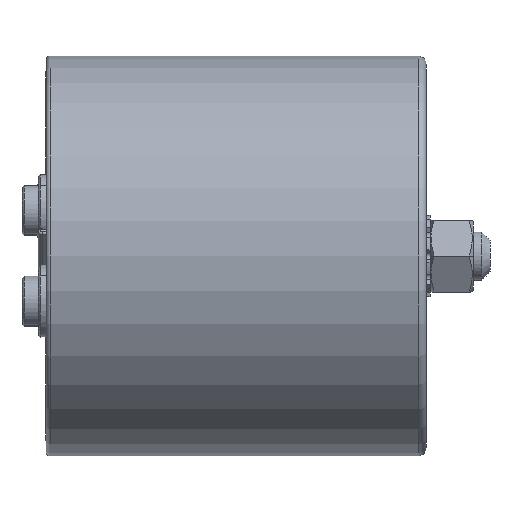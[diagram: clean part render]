
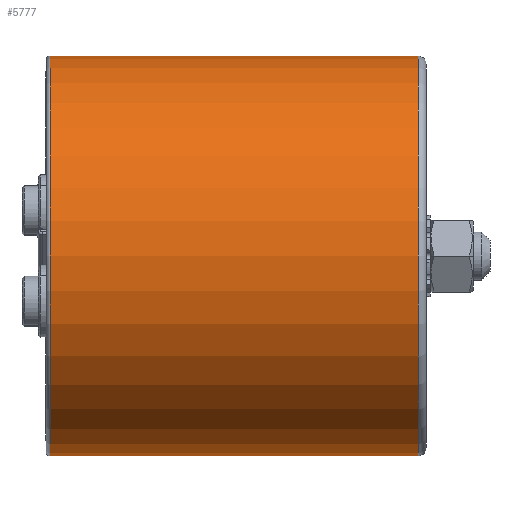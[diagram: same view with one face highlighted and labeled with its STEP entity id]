
A CAD part, left-side view. The second image highlights one B-rep face of the part: STEP entity #5777.
In plain terms, the highlighted cylindrical face has radius 50 mm (diameter 100 mm), a partial arc.
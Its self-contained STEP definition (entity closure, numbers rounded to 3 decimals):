
#189 = DIRECTION ( 'NONE',  ( 0., 0., 1. ) ) ;
#256 = VERTEX_POINT ( 'NONE', #309 ) ;
#309 = CARTESIAN_POINT ( 'NONE',  ( 0., -93., -50. ) ) ;
#324 = CARTESIAN_POINT ( 'NONE',  ( 0., -1., 50. ) ) ;
#345 = AXIS2_PLACEMENT_3D ( 'NONE', #6505, #2710, #3947 ) ;
#641 = CIRCLE ( 'NONE', #1678, 50. ) ;
#693 = DIRECTION ( 'NONE',  ( 0., 1., 0. ) ) ;
#722 = CARTESIAN_POINT ( 'NONE',  ( 0., -10., 0. ) ) ;
#750 = VERTEX_POINT ( 'NONE', #6917 ) ;
#807 = AXIS2_PLACEMENT_3D ( 'NONE', #722, #693, #3940 ) ;
#1226 = FACE_OUTER_BOUND ( 'NONE', #7086, .T. ) ;
#1338 = EDGE_CURVE ( 'NONE', #4490, #5555, #7600, .T. ) ;
#1422 = ORIENTED_EDGE ( 'NONE', *, *, #2392, .F. ) ;
#1678 = AXIS2_PLACEMENT_3D ( 'NONE', #5245, #6534, #189 ) ;
#2350 = CARTESIAN_POINT ( 'NONE',  ( 0., -10., 50. ) ) ;
#2392 = EDGE_CURVE ( 'NONE', #256, #750, #3693, .T. ) ;
#2710 = DIRECTION ( 'NONE',  ( 0., 1., 0. ) ) ;
#3080 = VECTOR ( 'NONE', #6810, 1000. ) ;
#3278 = ORIENTED_EDGE ( 'NONE', *, *, #3966, .T. ) ;
#3693 = LINE ( 'NONE', #6830, #3080 ) ;
#3940 = DIRECTION ( 'NONE',  ( 0., 0., -1. ) ) ;
#3947 = DIRECTION ( 'NONE',  ( 0., 0., -1. ) ) ;
#3966 = EDGE_CURVE ( 'NONE', #256, #4490, #5295, .T. ) ;
#4490 = VERTEX_POINT ( 'NONE', #4662 ) ;
#4662 = CARTESIAN_POINT ( 'NONE',  ( 0., -93., 50. ) ) ;
#5245 = CARTESIAN_POINT ( 'NONE',  ( 0., -1., 0. ) ) ;
#5295 = CIRCLE ( 'NONE', #345, 50. ) ;
#5424 = EDGE_CURVE ( 'NONE', #5555, #750, #641, .T. ) ;
#5555 = VERTEX_POINT ( 'NONE', #324 ) ;
#5777 = ADVANCED_FACE ( 'NONE', ( #1226 ), #6053, .T. ) ;
#6053 = CYLINDRICAL_SURFACE ( 'NONE', #807, 50. ) ;
#6505 = CARTESIAN_POINT ( 'NONE',  ( 0., -93., 0. ) ) ;
#6534 = DIRECTION ( 'NONE',  ( 0., -1., 0. ) ) ;
#6721 = DIRECTION ( 'NONE',  ( 0., 1., 0. ) ) ;
#6774 = ORIENTED_EDGE ( 'NONE', *, *, #1338, .T. ) ;
#6810 = DIRECTION ( 'NONE',  ( 0., 1., 0. ) ) ;
#6830 = CARTESIAN_POINT ( 'NONE',  ( 0., -10., -50. ) ) ;
#6917 = CARTESIAN_POINT ( 'NONE',  ( 0., -1., -50. ) ) ;
#7086 = EDGE_LOOP ( 'NONE', ( #3278, #6774, #7665, #1422 ) ) ;
#7600 = LINE ( 'NONE', #2350, #7795 ) ;
#7665 = ORIENTED_EDGE ( 'NONE', *, *, #5424, .T. ) ;
#7795 = VECTOR ( 'NONE', #6721, 1000. ) ;
